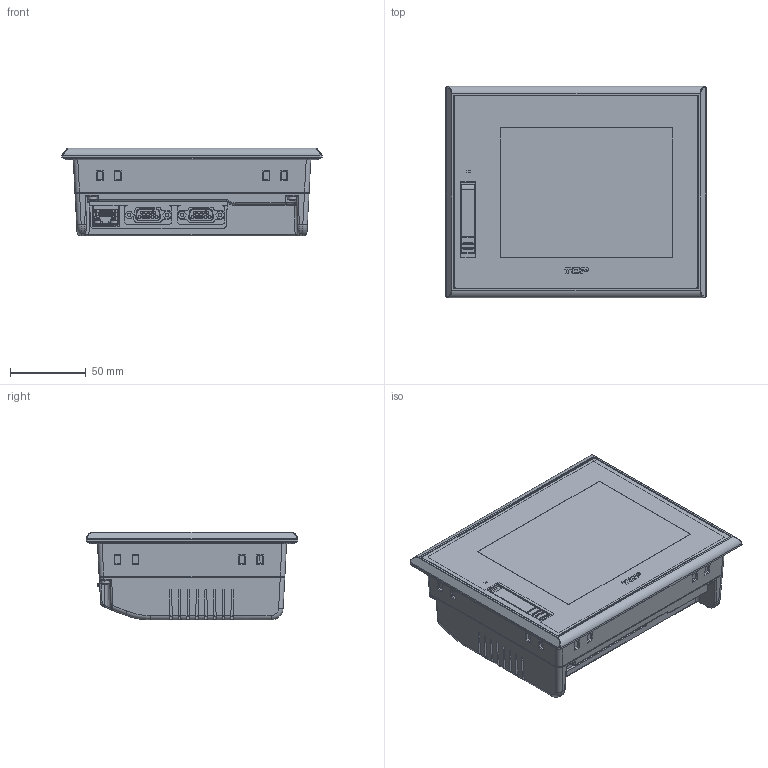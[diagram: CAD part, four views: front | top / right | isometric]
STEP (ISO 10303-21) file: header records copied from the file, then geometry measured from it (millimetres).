
FILE_DESCRIPTION((''),'2;1');
FILE_NAME('3D-TOPRX0501','2026-01-30T12:21:40',('USER'),(''),'CREO PARAMETRIC BY PTC INC, 2024153','CREO PARAMETRIC BY PTC INC, 2024153','');
FILE_SCHEMA(('CONFIG_CONTROL_DESIGN'));
Products named in the file (1): 3D-TOPRX0501
Bounding box: 172 x 140 x 58.05 mm (x, y, z)
Volume: 1008922.8 mm3; surface area: 119424.7 mm2
Topology: 1 solids, 21 shells, 3391 faces, 9571 edges, 6302 vertices
Faces by surface type: plane 2273, cylinder 731, cone 127, torus 117, bspline 82, sphere 34, extrusion 27
Entity records: 115907 total; most frequent: CARTESIAN_POINT 29076, ORIENTED_EDGE 19072, DIRECTION 16584, EDGE_CURVE 9542, VECTOR 6744, LINE 6717, VERTEX_POINT 6302, AXIS2_PLACEMENT_3D 4920
